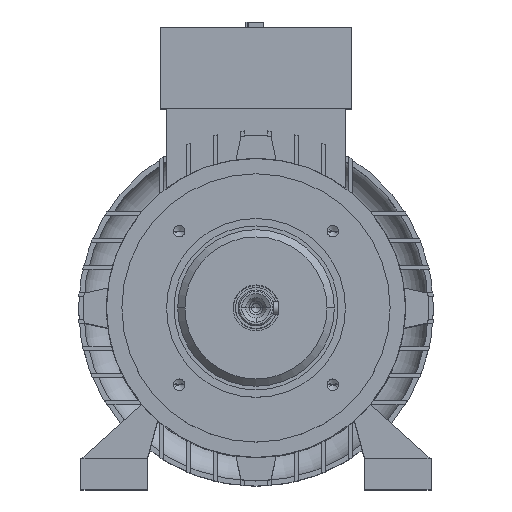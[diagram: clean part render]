
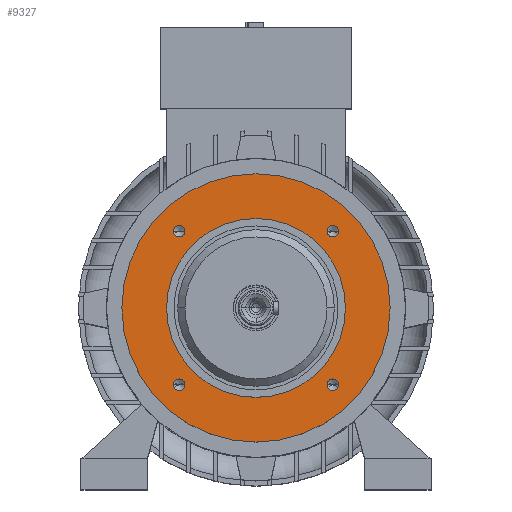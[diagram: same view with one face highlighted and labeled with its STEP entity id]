
A CAD part, top view. The second image highlights one B-rep face of the part: STEP entity #9327.
In plain terms, the highlighted planar face has unit normal (0, 0, 1).
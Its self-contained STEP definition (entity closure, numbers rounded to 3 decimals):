
#44 = CARTESIAN_POINT ( 'NONE',  ( -32.302, -30.052, 90. ) ) ;
#48 = DIRECTION ( 'NONE',  ( 0., 0., -1. ) ) ;
#54 = CIRCLE ( 'NONE', #12792, 2.25 ) ;
#241 = AXIS2_PLACEMENT_3D ( 'NONE', #15498, #9051, #5251 ) ;
#299 = ORIENTED_EDGE ( 'NONE', *, *, #9847, .F. ) ;
#300 = CARTESIAN_POINT ( 'NONE',  ( 30.052, 30.052, 90. ) ) ;
#557 = VERTEX_POINT ( 'NONE', #1238 ) ;
#820 = AXIS2_PLACEMENT_3D ( 'NONE', #11215, #12491, #3108 ) ;
#976 = ORIENTED_EDGE ( 'NONE', *, *, #1923, .F. ) ;
#993 = EDGE_CURVE ( 'NONE', #2524, #2799, #14464, .T. ) ;
#1018 = CIRCLE ( 'NONE', #12570, 2.25 ) ;
#1028 = CIRCLE ( 'NONE', #12703, 2.25 ) ;
#1081 = EDGE_CURVE ( 'NONE', #13784, #7415, #1018, .T. ) ;
#1213 = CARTESIAN_POINT ( 'NONE',  ( -52.5, 0., 90. ) ) ;
#1238 = CARTESIAN_POINT ( 'NONE',  ( 35., 0., 90. ) ) ;
#1326 = AXIS2_PLACEMENT_3D ( 'NONE', #2441, #48, #12512 ) ;
#1473 = DIRECTION ( 'NONE',  ( 0., 0., 1. ) ) ;
#1573 = DIRECTION ( 'NONE',  ( 1., 0., 0. ) ) ;
#1923 = EDGE_CURVE ( 'NONE', #7387, #8066, #13220, .T. ) ;
#2077 = CARTESIAN_POINT ( 'NONE',  ( -27.802, -30.052, 90. ) ) ;
#2113 = CIRCLE ( 'NONE', #820, 2.25 ) ;
#2136 = CARTESIAN_POINT ( 'NONE',  ( -30.052, -30.052, 90. ) ) ;
#2398 = AXIS2_PLACEMENT_3D ( 'NONE', #4761, #16169, #13610 ) ;
#2441 = CARTESIAN_POINT ( 'NONE',  ( 0., 0., 90. ) ) ;
#2524 = VERTEX_POINT ( 'NONE', #8032 ) ;
#2613 = DIRECTION ( 'NONE',  ( 0., 0., 1. ) ) ;
#2799 = VERTEX_POINT ( 'NONE', #16027 ) ;
#2838 = DIRECTION ( 'NONE',  ( -1., 0., 0. ) ) ;
#2904 = VERTEX_POINT ( 'NONE', #4823 ) ;
#3108 = DIRECTION ( 'NONE',  ( 1., 0., 0. ) ) ;
#3118 = FACE_BOUND ( 'NONE', #9885, .T. ) ;
#3303 = CIRCLE ( 'NONE', #2398, 52.5 ) ;
#3361 = VERTEX_POINT ( 'NONE', #15894 ) ;
#3386 = CARTESIAN_POINT ( 'NONE',  ( 27.802, -30.052, 90. ) ) ;
#3623 = DIRECTION ( 'NONE',  ( 0., 0., 1. ) ) ;
#3693 = EDGE_CURVE ( 'NONE', #7726, #3361, #2113, .T. ) ;
#4761 = CARTESIAN_POINT ( 'NONE',  ( 0., 0., 90. ) ) ;
#4815 = CARTESIAN_POINT ( 'NONE',  ( -30.052, 30.052, 90. ) ) ;
#4823 = CARTESIAN_POINT ( 'NONE',  ( -35., 0., 90. ) ) ;
#5251 = DIRECTION ( 'NONE',  ( -1., 0., 0. ) ) ;
#6108 = AXIS2_PLACEMENT_3D ( 'NONE', #13317, #14601, #13492 ) ;
#6262 = CARTESIAN_POINT ( 'NONE',  ( -32.302, 30.052, 90. ) ) ;
#6265 = CARTESIAN_POINT ( 'NONE',  ( 0., 52.5, 90. ) ) ;
#6482 = DIRECTION ( 'NONE',  ( 1., 0., 0. ) ) ;
#6491 = VERTEX_POINT ( 'NONE', #44 ) ;
#6649 = FACE_BOUND ( 'NONE', #12454, .T. ) ;
#6875 = ORIENTED_EDGE ( 'NONE', *, *, #3693, .F. ) ;
#6962 = DIRECTION ( 'NONE',  ( 0., 0., 1. ) ) ;
#7084 = EDGE_CURVE ( 'NONE', #2799, #2524, #54, .T. ) ;
#7152 = EDGE_LOOP ( 'NONE', ( #15265, #6875 ) ) ;
#7203 = CIRCLE ( 'NONE', #1326, 35. ) ;
#7387 = VERTEX_POINT ( 'NONE', #1213 ) ;
#7415 = VERTEX_POINT ( 'NONE', #6262 ) ;
#7726 = VERTEX_POINT ( 'NONE', #3386 ) ;
#7727 = EDGE_CURVE ( 'NONE', #6491, #11853, #1028, .T. ) ;
#7951 = DIRECTION ( 'NONE',  ( 1., 0., 0. ) ) ;
#8032 = CARTESIAN_POINT ( 'NONE',  ( 27.802, 30.052, 90. ) ) ;
#8066 = VERTEX_POINT ( 'NONE', #13939 ) ;
#8224 = EDGE_LOOP ( 'NONE', ( #16069, #15834 ) ) ;
#8570 = EDGE_CURVE ( 'NONE', #3361, #7726, #9853, .T. ) ;
#8664 = CIRCLE ( 'NONE', #11013, 35. ) ;
#8915 = EDGE_CURVE ( 'NONE', #557, #2904, #8664, .T. ) ;
#9051 = DIRECTION ( 'NONE',  ( 0., 0., -1. ) ) ;
#9113 = DIRECTION ( 'NONE',  ( 0., 0., 1. ) ) ;
#9327 = ADVANCED_FACE ( 'NONE', ( #10591, #3118, #15386, #12006, #6649, #12391 ), #12508, .T. ) ;
#9640 = AXIS2_PLACEMENT_3D ( 'NONE', #13977, #2613, #6482 ) ;
#9646 = ORIENTED_EDGE ( 'NONE', *, *, #7084, .F. ) ;
#9655 = CIRCLE ( 'NONE', #14795, 2.25 ) ;
#9790 = ORIENTED_EDGE ( 'NONE', *, *, #993, .F. ) ;
#9838 = DIRECTION ( 'NONE',  ( 1., 0., 0. ) ) ;
#9847 = EDGE_CURVE ( 'NONE', #8066, #7387, #3303, .T. ) ;
#9853 = CIRCLE ( 'NONE', #9640, 2.25 ) ;
#9885 = EDGE_LOOP ( 'NONE', ( #12430, #14425 ) ) ;
#10320 = CARTESIAN_POINT ( 'NONE',  ( -30.052, 30.052, 90. ) ) ;
#10453 = EDGE_LOOP ( 'NONE', ( #9646, #9790 ) ) ;
#10591 = FACE_BOUND ( 'NONE', #8224, .T. ) ;
#10748 = EDGE_CURVE ( 'NONE', #7415, #13784, #11877, .T. ) ;
#11013 = AXIS2_PLACEMENT_3D ( 'NONE', #15844, #13609, #2838 ) ;
#11215 = CARTESIAN_POINT ( 'NONE',  ( 30.052, -30.052, 90. ) ) ;
#11730 = EDGE_CURVE ( 'NONE', #11853, #6491, #9655, .T. ) ;
#11853 = VERTEX_POINT ( 'NONE', #2077 ) ;
#11877 = CIRCLE ( 'NONE', #12973, 2.25 ) ;
#12006 = FACE_BOUND ( 'NONE', #7152, .T. ) ;
#12073 = ORIENTED_EDGE ( 'NONE', *, *, #8915, .T. ) ;
#12391 = FACE_OUTER_BOUND ( 'NONE', #13803, .T. ) ;
#12430 = ORIENTED_EDGE ( 'NONE', *, *, #1081, .F. ) ;
#12454 = EDGE_LOOP ( 'NONE', ( #13761, #12073 ) ) ;
#12491 = DIRECTION ( 'NONE',  ( 0., 0., 1. ) ) ;
#12508 = PLANE ( 'NONE',  #14880 ) ;
#12512 = DIRECTION ( 'NONE',  ( -1., 0., 0. ) ) ;
#12558 = DIRECTION ( 'NONE',  ( 1., 0., 0. ) ) ;
#12570 = AXIS2_PLACEMENT_3D ( 'NONE', #10320, #1473, #7951 ) ;
#12703 = AXIS2_PLACEMENT_3D ( 'NONE', #2136, #6962, #13498 ) ;
#12792 = AXIS2_PLACEMENT_3D ( 'NONE', #300, #9113, #1573 ) ;
#12973 = AXIS2_PLACEMENT_3D ( 'NONE', #4815, #16013, #9838 ) ;
#13012 = CARTESIAN_POINT ( 'NONE',  ( -27.802, 30.052, 90. ) ) ;
#13220 = CIRCLE ( 'NONE', #241, 52.5 ) ;
#13314 = DIRECTION ( 'NONE',  ( 0., 0., 1. ) ) ;
#13317 = CARTESIAN_POINT ( 'NONE',  ( 30.052, 30.052, 90. ) ) ;
#13492 = DIRECTION ( 'NONE',  ( 1., 0., 0. ) ) ;
#13498 = DIRECTION ( 'NONE',  ( 1., 0., 0. ) ) ;
#13609 = DIRECTION ( 'NONE',  ( 0., 0., -1. ) ) ;
#13610 = DIRECTION ( 'NONE',  ( -1., 0., 0. ) ) ;
#13653 = EDGE_CURVE ( 'NONE', #2904, #557, #7203, .T. ) ;
#13761 = ORIENTED_EDGE ( 'NONE', *, *, #13653, .T. ) ;
#13784 = VERTEX_POINT ( 'NONE', #13012 ) ;
#13803 = EDGE_LOOP ( 'NONE', ( #976, #299 ) ) ;
#13939 = CARTESIAN_POINT ( 'NONE',  ( 52.5, 0., 90. ) ) ;
#13977 = CARTESIAN_POINT ( 'NONE',  ( 30.052, -30.052, 90. ) ) ;
#14425 = ORIENTED_EDGE ( 'NONE', *, *, #10748, .F. ) ;
#14464 = CIRCLE ( 'NONE', #6108, 2.25 ) ;
#14601 = DIRECTION ( 'NONE',  ( 0., 0., 1. ) ) ;
#14795 = AXIS2_PLACEMENT_3D ( 'NONE', #15724, #13314, #15830 ) ;
#14880 = AXIS2_PLACEMENT_3D ( 'NONE', #6265, #3623, #12558 ) ;
#15265 = ORIENTED_EDGE ( 'NONE', *, *, #8570, .F. ) ;
#15386 = FACE_BOUND ( 'NONE', #10453, .T. ) ;
#15498 = CARTESIAN_POINT ( 'NONE',  ( 0., 0., 90. ) ) ;
#15724 = CARTESIAN_POINT ( 'NONE',  ( -30.052, -30.052, 90. ) ) ;
#15830 = DIRECTION ( 'NONE',  ( 1., 0., 0. ) ) ;
#15834 = ORIENTED_EDGE ( 'NONE', *, *, #7727, .F. ) ;
#15844 = CARTESIAN_POINT ( 'NONE',  ( 0., 0., 90. ) ) ;
#15894 = CARTESIAN_POINT ( 'NONE',  ( 32.302, -30.052, 90. ) ) ;
#16013 = DIRECTION ( 'NONE',  ( 0., 0., 1. ) ) ;
#16027 = CARTESIAN_POINT ( 'NONE',  ( 32.302, 30.052, 90. ) ) ;
#16069 = ORIENTED_EDGE ( 'NONE', *, *, #11730, .F. ) ;
#16169 = DIRECTION ( 'NONE',  ( 0., 0., -1. ) ) ;
